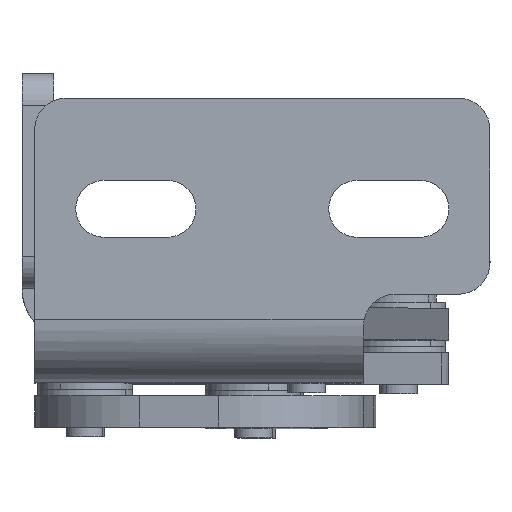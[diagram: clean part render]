
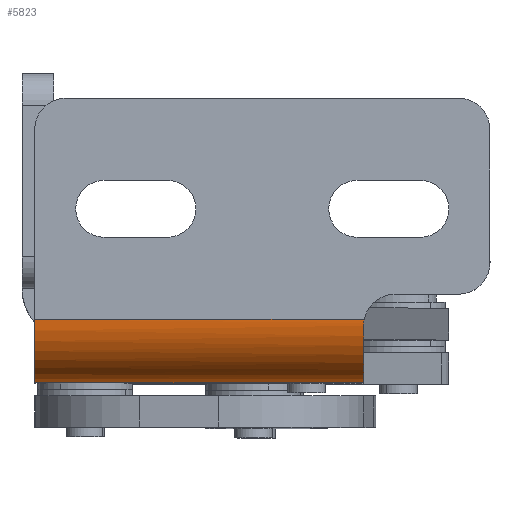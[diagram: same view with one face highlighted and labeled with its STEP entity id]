
A CAD part, top view. The second image highlights one B-rep face of the part: STEP entity #5823.
In plain terms, the highlighted cylindrical face has radius 10 mm (diameter 20 mm), a partial arc.
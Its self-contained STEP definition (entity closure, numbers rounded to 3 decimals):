
#405 = EDGE_CURVE ( 'NONE', #1946, #5130, #3413, .T. ) ;
#411 = DIRECTION ( 'NONE',  ( 1., 0., 0. ) ) ;
#562 = AXIS2_PLACEMENT_3D ( 'NONE', #4950, #5602, #2492 ) ;
#1143 = CARTESIAN_POINT ( 'NONE',  ( -2582.5, -670., 1080. ) ) ;
#1181 = VERTEX_POINT ( 'NONE', #1143 ) ;
#1209 = AXIS2_PLACEMENT_3D ( 'NONE', #3404, #411, #4020 ) ;
#1559 = CARTESIAN_POINT ( 'NONE',  ( -2582.5, -661., 1089.95 ) ) ;
#1673 = ORIENTED_EDGE ( 'NONE', *, *, #7866, .T. ) ;
#1855 = CARTESIAN_POINT ( 'NONE',  ( -2582.5, -661., 1089.95 ) ) ;
#1946 = VERTEX_POINT ( 'NONE', #1855 ) ;
#1986 = VERTEX_POINT ( 'NONE', #7515 ) ;
#2316 = EDGE_LOOP ( 'NONE', ( #3050, #4645, #1673, #4561, #3952 ) ) ;
#2492 = DIRECTION ( 'NONE',  ( 0., 0., -1. ) ) ;
#2532 = LINE ( 'NONE', #7309, #7465 ) ;
#2702 = DIRECTION ( 'NONE',  ( 0., 0., 1. ) ) ;
#2844 = VERTEX_POINT ( 'NONE', #3998 ) ;
#2865 = CYLINDRICAL_SURFACE ( 'NONE', #6806, 10. ) ;
#2873 = DIRECTION ( 'NONE',  ( -1., 0., 0. ) ) ;
#3050 = ORIENTED_EDGE ( 'NONE', *, *, #5309, .F. ) ;
#3404 = CARTESIAN_POINT ( 'NONE',  ( -2582.5, -660., 1080. ) ) ;
#3413 = B_SPLINE_CURVE_WITH_KNOTS ( 'NONE', 3,
 ( #1559, #7813, #6525, #6401 ),
 .UNSPECIFIED., .F., .F.,
 ( 4, 4 ),
 ( 0., 0.001 ),
 .UNSPECIFIED. ) ;
#3900 = CARTESIAN_POINT ( 'NONE',  ( -2582.399, -660., 1090. ) ) ;
#3952 = ORIENTED_EDGE ( 'NONE', *, *, #7075, .T. ) ;
#3998 = CARTESIAN_POINT ( 'NONE',  ( -2634.5, -670., 1080. ) ) ;
#4020 = DIRECTION ( 'NONE',  ( 0., 0., 1. ) ) ;
#4124 = EDGE_CURVE ( 'NONE', #2844, #1986, #5492, .T. ) ;
#4449 = CIRCLE ( 'NONE', #1209, 10. ) ;
#4474 = VECTOR ( 'NONE', #2873, 1000. ) ;
#4561 = ORIENTED_EDGE ( 'NONE', *, *, #4124, .F. ) ;
#4645 = ORIENTED_EDGE ( 'NONE', *, *, #405, .T. ) ;
#4950 = CARTESIAN_POINT ( 'NONE',  ( -2634.5, -660., 1080. ) ) ;
#5130 = VERTEX_POINT ( 'NONE', #3900 ) ;
#5309 = EDGE_CURVE ( 'NONE', #1946, #1181, #4449, .T. ) ;
#5319 = CARTESIAN_POINT ( 'NONE',  ( -2562.5, -660., 1080. ) ) ;
#5492 = CIRCLE ( 'NONE', #562, 10. ) ;
#5602 = DIRECTION ( 'NONE',  ( -1., 0., 0. ) ) ;
#5823 = ADVANCED_FACE ( 'NONE', ( #7110 ), #2865, .T. ) ;
#5890 = DIRECTION ( 'NONE',  ( 1., 0., 0. ) ) ;
#5982 = CARTESIAN_POINT ( 'NONE',  ( -2634.5, -660., 1090. ) ) ;
#6401 = CARTESIAN_POINT ( 'NONE',  ( -2582.399, -660., 1090. ) ) ;
#6510 = LINE ( 'NONE', #5982, #4474 ) ;
#6525 = CARTESIAN_POINT ( 'NONE',  ( -2582.466, -660.331, 1090. ) ) ;
#6806 = AXIS2_PLACEMENT_3D ( 'NONE', #5319, #5890, #2702 ) ;
#7075 = EDGE_CURVE ( 'NONE', #2844, #1181, #2532, .T. ) ;
#7110 = FACE_OUTER_BOUND ( 'NONE', #2316, .T. ) ;
#7309 = CARTESIAN_POINT ( 'NONE',  ( -2634.5, -670., 1080. ) ) ;
#7465 = VECTOR ( 'NONE', #7991, 1000. ) ;
#7515 = CARTESIAN_POINT ( 'NONE',  ( -2634.5, -660., 1090. ) ) ;
#7813 = CARTESIAN_POINT ( 'NONE',  ( -2582.5, -660.664, 1089.984 ) ) ;
#7866 = EDGE_CURVE ( 'NONE', #5130, #1986, #6510, .T. ) ;
#7991 = DIRECTION ( 'NONE',  ( 1., 0., 0. ) ) ;
